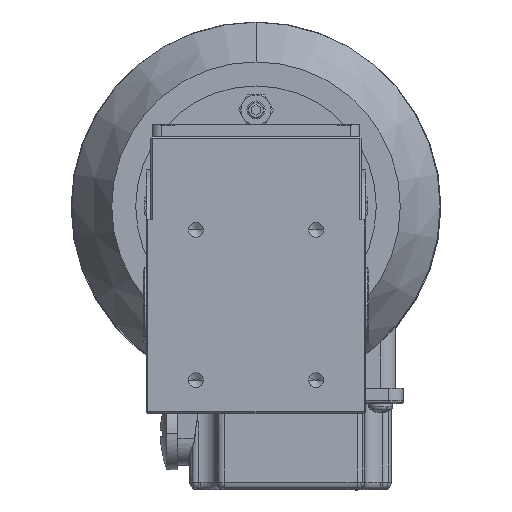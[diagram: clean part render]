
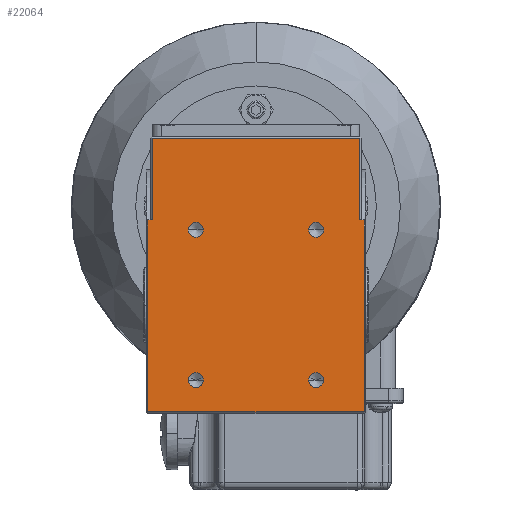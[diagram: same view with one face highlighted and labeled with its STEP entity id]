
A CAD part, top view. The second image highlights one B-rep face of the part: STEP entity #22064.
In plain terms, the highlighted planar face has unit normal (0, 0, 1).
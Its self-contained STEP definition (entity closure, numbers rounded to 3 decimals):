
#16 = DIRECTION ( 'NONE',  ( 1., 0., 0. ) ) ;
#783 = LINE ( 'NONE', #8405, #22528 ) ;
#992 = EDGE_CURVE ( 'NONE', #6242, #12266, #2620, .T. ) ;
#1002 = AXIS2_PLACEMENT_3D ( 'NONE', #5750, #7789, #15556 ) ;
#1271 = VERTEX_POINT ( 'NONE', #2110 ) ;
#1751 = CARTESIAN_POINT ( 'NONE',  ( -17.5, 25., 35. ) ) ;
#1834 = EDGE_LOOP ( 'NONE', ( #22939, #6014 ) ) ;
#1997 = CARTESIAN_POINT ( 'NONE',  ( -20., -25., 35. ) ) ;
#2075 = FACE_OUTER_BOUND ( 'NONE', #13676, .T. ) ;
#2094 = CARTESIAN_POINT ( 'NONE',  ( -17.5, -25., 35. ) ) ;
#2110 = CARTESIAN_POINT ( 'NONE',  ( 22.5, 25., 35. ) ) ;
#2121 = DIRECTION ( 'NONE',  ( 0., 0., 1. ) ) ;
#2242 = CARTESIAN_POINT ( 'NONE',  ( -36., 28.284, 35. ) ) ;
#2620 = LINE ( 'NONE', #22890, #9821 ) ;
#2807 = DIRECTION ( 'NONE',  ( 1., 0., 0. ) ) ;
#3353 = ORIENTED_EDGE ( 'NONE', *, *, #10433, .T. ) ;
#3820 = DIRECTION ( 'NONE',  ( 0., 1., 0. ) ) ;
#3901 = CIRCLE ( 'NONE', #17797, 2.5 ) ;
#3913 = CARTESIAN_POINT ( 'NONE',  ( 36., 56., 35. ) ) ;
#3927 = CARTESIAN_POINT ( 'NONE',  ( -22.5, 25., 35. ) ) ;
#4119 = VERTEX_POINT ( 'NONE', #6096 ) ;
#4219 = ORIENTED_EDGE ( 'NONE', *, *, #11160, .T. ) ;
#4279 = CARTESIAN_POINT ( 'NONE',  ( -20., -25., 35. ) ) ;
#4305 = CIRCLE ( 'NONE', #20960, 2.5 ) ;
#4642 = DIRECTION ( 'NONE',  ( 1., 0., 0. ) ) ;
#4931 = VERTEX_POINT ( 'NONE', #23242 ) ;
#5177 = CARTESIAN_POINT ( 'NONE',  ( -42.5, -35.5, 35. ) ) ;
#5180 = CARTESIAN_POINT ( 'NONE',  ( 20., 25., 35. ) ) ;
#5271 = AXIS2_PLACEMENT_3D ( 'NONE', #10346, #8363, #23706 ) ;
#5299 = EDGE_CURVE ( 'NONE', #18367, #4119, #20346, .T. ) ;
#5346 = AXIS2_PLACEMENT_3D ( 'NONE', #14000, #23391, #17822 ) ;
#5436 = LINE ( 'NONE', #5177, #22345 ) ;
#5467 = CARTESIAN_POINT ( 'NONE',  ( -34.5, 55.5, 35. ) ) ;
#5632 = CARTESIAN_POINT ( 'NONE',  ( 20., -25., 35. ) ) ;
#5658 = EDGE_CURVE ( 'NONE', #12266, #23435, #5436, .T. ) ;
#5750 = CARTESIAN_POINT ( 'NONE',  ( -20., 25., 35. ) ) ;
#5802 = LINE ( 'NONE', #11302, #15997 ) ;
#5880 = DIRECTION ( 'NONE',  ( 0., 0., 1. ) ) ;
#5909 = CARTESIAN_POINT ( 'NONE',  ( 17.5, 25., 35. ) ) ;
#6014 = ORIENTED_EDGE ( 'NONE', *, *, #18601, .F. ) ;
#6096 = CARTESIAN_POINT ( 'NONE',  ( 17.5, -25., 35. ) ) ;
#6242 = VERTEX_POINT ( 'NONE', #2242 ) ;
#6587 = VERTEX_POINT ( 'NONE', #5467 ) ;
#7196 = EDGE_CURVE ( 'NONE', #1271, #22269, #14891, .T. ) ;
#7221 = EDGE_LOOP ( 'NONE', ( #21191, #21204 ) ) ;
#7305 = AXIS2_PLACEMENT_3D ( 'NONE', #1997, #2121, #16 ) ;
#7366 = LINE ( 'NONE', #14913, #18374 ) ;
#7496 = PLANE ( 'NONE',  #17895 ) ;
#7789 = DIRECTION ( 'NONE',  ( 0., 0., 1. ) ) ;
#8363 = DIRECTION ( 'NONE',  ( 0., 0., 1. ) ) ;
#8405 = CARTESIAN_POINT ( 'NONE',  ( 35., 28.284, 35. ) ) ;
#8537 = CARTESIAN_POINT ( 'NONE',  ( 34.5, 28.284, 35. ) ) ;
#8588 = CIRCLE ( 'NONE', #1002, 2.5 ) ;
#8719 = ORIENTED_EDGE ( 'NONE', *, *, #5299, .F. ) ;
#8767 = VERTEX_POINT ( 'NONE', #3927 ) ;
#9085 = EDGE_CURVE ( 'NONE', #4931, #6587, #11128, .T. ) ;
#9178 = VERTEX_POINT ( 'NONE', #17394 ) ;
#9262 = DIRECTION ( 'NONE',  ( -1., 0., 0. ) ) ;
#9299 = ORIENTED_EDGE ( 'NONE', *, *, #19856, .F. ) ;
#9359 = AXIS2_PLACEMENT_3D ( 'NONE', #22271, #20404, #23999 ) ;
#9422 = ORIENTED_EDGE ( 'NONE', *, *, #16492, .F. ) ;
#9560 = FACE_BOUND ( 'NONE', #18787, .T. ) ;
#9789 = ORIENTED_EDGE ( 'NONE', *, *, #12184, .T. ) ;
#9791 = DIRECTION ( 'NONE',  ( 0., 1., 0. ) ) ;
#9813 = ORIENTED_EDGE ( 'NONE', *, *, #21417, .F. ) ;
#9821 = VECTOR ( 'NONE', #15804, 1000. ) ;
#10146 = VECTOR ( 'NONE', #9791, 1000. ) ;
#10346 = CARTESIAN_POINT ( 'NONE',  ( 20., -25., 35. ) ) ;
#10433 = EDGE_CURVE ( 'NONE', #6587, #23562, #7366, .T. ) ;
#11029 = EDGE_CURVE ( 'NONE', #23328, #16237, #3901, .T. ) ;
#11128 = LINE ( 'NONE', #18788, #20148 ) ;
#11160 = EDGE_CURVE ( 'NONE', #9178, #22463, #783, .T. ) ;
#11302 = CARTESIAN_POINT ( 'NONE',  ( -35., 28.284, 35. ) ) ;
#11530 = DIRECTION ( 'NONE',  ( 1., 0., 0. ) ) ;
#11544 = DIRECTION ( 'NONE',  ( 0., 0., -1. ) ) ;
#12184 = EDGE_CURVE ( 'NONE', #23435, #9178, #20937, .T. ) ;
#12266 = VERTEX_POINT ( 'NONE', #17816 ) ;
#12422 = CARTESIAN_POINT ( 'NONE',  ( -34.5, 28.284, 35. ) ) ;
#12962 = LINE ( 'NONE', #20504, #16744 ) ;
#13676 = EDGE_LOOP ( 'NONE', ( #9299, #21190, #23412, #9789, #4219, #22177, #21290, #3353 ) ) ;
#14000 = CARTESIAN_POINT ( 'NONE',  ( 20., 25., 35. ) ) ;
#14530 = CARTESIAN_POINT ( 'NONE',  ( -22.5, -25., 35. ) ) ;
#14781 = CIRCLE ( 'NONE', #23836, 2.5 ) ;
#14891 = CIRCLE ( 'NONE', #5346, 2.5 ) ;
#14913 = CARTESIAN_POINT ( 'NONE',  ( -34.5, 56., 35. ) ) ;
#15556 = DIRECTION ( 'NONE',  ( 1., 0., 0. ) ) ;
#15804 = DIRECTION ( 'NONE',  ( 0., -1., 0. ) ) ;
#15997 = VECTOR ( 'NONE', #11530, 1000. ) ;
#16237 = VERTEX_POINT ( 'NONE', #2094 ) ;
#16492 = EDGE_CURVE ( 'NONE', #4119, #18367, #4305, .T. ) ;
#16665 = EDGE_CURVE ( 'NONE', #22463, #4931, #12962, .T. ) ;
#16744 = VECTOR ( 'NONE', #20248, 1000. ) ;
#16878 = CIRCLE ( 'NONE', #9359, 2.5 ) ;
#17116 = CARTESIAN_POINT ( 'NONE',  ( -42.5, 56., 35. ) ) ;
#17331 = DIRECTION ( 'NONE',  ( 0., 0., 1. ) ) ;
#17368 = FACE_BOUND ( 'NONE', #7221, .T. ) ;
#17394 = CARTESIAN_POINT ( 'NONE',  ( 36., 28.284, 35. ) ) ;
#17797 = AXIS2_PLACEMENT_3D ( 'NONE', #4279, #17331, #4642 ) ;
#17816 = CARTESIAN_POINT ( 'NONE',  ( -36., -35.5, 35. ) ) ;
#17822 = DIRECTION ( 'NONE',  ( 1., 0., 0. ) ) ;
#17895 = AXIS2_PLACEMENT_3D ( 'NONE', #17116, #11544, #3820 ) ;
#18086 = ORIENTED_EDGE ( 'NONE', *, *, #21181, .F. ) ;
#18120 = VERTEX_POINT ( 'NONE', #1751 ) ;
#18234 = DIRECTION ( 'NONE',  ( 0., 0., 1. ) ) ;
#18347 = DIRECTION ( 'NONE',  ( 1., 0., 0. ) ) ;
#18367 = VERTEX_POINT ( 'NONE', #22221 ) ;
#18374 = VECTOR ( 'NONE', #22093, 1000. ) ;
#18601 = EDGE_CURVE ( 'NONE', #22269, #1271, #14781, .T. ) ;
#18787 = EDGE_LOOP ( 'NONE', ( #18086, #9813 ) ) ;
#18788 = CARTESIAN_POINT ( 'NONE',  ( -42.5, 55.5, 35. ) ) ;
#19172 = EDGE_CURVE ( 'NONE', #16237, #23328, #24281, .T. ) ;
#19221 = FACE_BOUND ( 'NONE', #1834, .T. ) ;
#19856 = EDGE_CURVE ( 'NONE', #6242, #23562, #5802, .T. ) ;
#20148 = VECTOR ( 'NONE', #9262, 1000. ) ;
#20248 = DIRECTION ( 'NONE',  ( 0., 1., 0. ) ) ;
#20346 = CIRCLE ( 'NONE', #5271, 2.5 ) ;
#20404 = DIRECTION ( 'NONE',  ( 0., 0., 1. ) ) ;
#20504 = CARTESIAN_POINT ( 'NONE',  ( 34.5, 56., 35. ) ) ;
#20776 = DIRECTION ( 'NONE',  ( 1., 0., 0. ) ) ;
#20937 = LINE ( 'NONE', #3913, #10146 ) ;
#20960 = AXIS2_PLACEMENT_3D ( 'NONE', #5632, #5880, #20776 ) ;
#21171 = DIRECTION ( 'NONE',  ( -1., 0., 0. ) ) ;
#21181 = EDGE_CURVE ( 'NONE', #18120, #8767, #16878, .T. ) ;
#21190 = ORIENTED_EDGE ( 'NONE', *, *, #992, .T. ) ;
#21191 = ORIENTED_EDGE ( 'NONE', *, *, #19172, .F. ) ;
#21204 = ORIENTED_EDGE ( 'NONE', *, *, #11029, .F. ) ;
#21290 = ORIENTED_EDGE ( 'NONE', *, *, #9085, .T. ) ;
#21412 = EDGE_LOOP ( 'NONE', ( #8719, #9422 ) ) ;
#21417 = EDGE_CURVE ( 'NONE', #8767, #18120, #8588, .T. ) ;
#22064 = ADVANCED_FACE ( 'NONE', ( #9560, #19221, #23045, #17368, #2075 ), #7496, .F. ) ;
#22093 = DIRECTION ( 'NONE',  ( 0., -1., 0. ) ) ;
#22177 = ORIENTED_EDGE ( 'NONE', *, *, #16665, .T. ) ;
#22221 = CARTESIAN_POINT ( 'NONE',  ( 22.5, -25., 35. ) ) ;
#22269 = VERTEX_POINT ( 'NONE', #5909 ) ;
#22271 = CARTESIAN_POINT ( 'NONE',  ( -20., 25., 35. ) ) ;
#22345 = VECTOR ( 'NONE', #18347, 1000. ) ;
#22463 = VERTEX_POINT ( 'NONE', #8537 ) ;
#22528 = VECTOR ( 'NONE', #21171, 1000. ) ;
#22890 = CARTESIAN_POINT ( 'NONE',  ( -36., 56., 35. ) ) ;
#22939 = ORIENTED_EDGE ( 'NONE', *, *, #7196, .F. ) ;
#23045 = FACE_BOUND ( 'NONE', #21412, .T. ) ;
#23242 = CARTESIAN_POINT ( 'NONE',  ( 34.5, 55.5, 35. ) ) ;
#23328 = VERTEX_POINT ( 'NONE', #14530 ) ;
#23391 = DIRECTION ( 'NONE',  ( 0., 0., 1. ) ) ;
#23412 = ORIENTED_EDGE ( 'NONE', *, *, #5658, .T. ) ;
#23435 = VERTEX_POINT ( 'NONE', #23578 ) ;
#23562 = VERTEX_POINT ( 'NONE', #12422 ) ;
#23578 = CARTESIAN_POINT ( 'NONE',  ( 36., -35.5, 35. ) ) ;
#23706 = DIRECTION ( 'NONE',  ( 1., 0., 0. ) ) ;
#23836 = AXIS2_PLACEMENT_3D ( 'NONE', #5180, #18234, #2807 ) ;
#23999 = DIRECTION ( 'NONE',  ( 1., 0., 0. ) ) ;
#24281 = CIRCLE ( 'NONE', #7305, 2.5 ) ;
